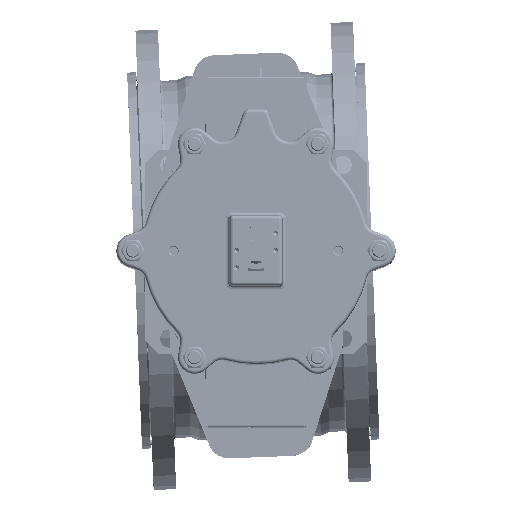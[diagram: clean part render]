
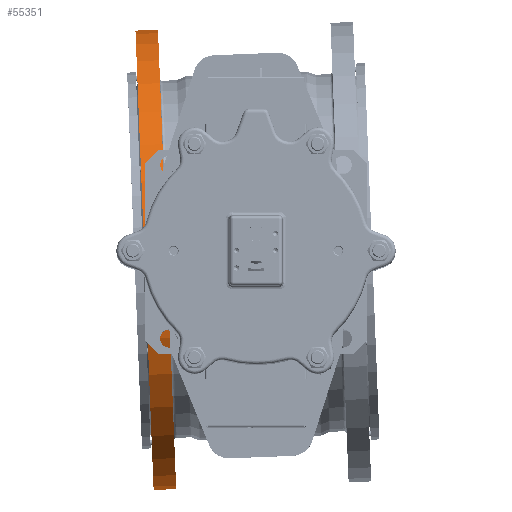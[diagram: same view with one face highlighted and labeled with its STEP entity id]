
A CAD part, top view. The second image highlights one B-rep face of the part: STEP entity #55351.
In plain terms, the highlighted cylindrical face has radius 265 mm (diameter 530 mm), a full revolution.
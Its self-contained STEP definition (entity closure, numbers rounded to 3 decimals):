
#1915=CYLINDRICAL_SURFACE('',#59389,265.);
#5272=FACE_OUTER_BOUND('',#8701,.T.);
#8701=EDGE_LOOP('',(#38372,#38373,#38374,#38375,#38376,#38377));
#12450=LINE('',#90997,#15572);
#15572=VECTOR('',#68068,265.);
#18478=CIRCLE('',#58563,265.);
#18479=CIRCLE('',#58564,265.);
#18690=CIRCLE('',#58842,265.);
#18691=CIRCLE('',#58843,265.);
#22460=VERTEX_POINT('',#83522);
#22461=VERTEX_POINT('',#83523);
#22719=VERTEX_POINT('',#84476);
#22720=VERTEX_POINT('',#84477);
#27822=EDGE_CURVE('',#22460,#22461,#18478,.T.);
#27823=EDGE_CURVE('',#22461,#22460,#18479,.T.);
#28134=EDGE_CURVE('',#22719,#22720,#18690,.T.);
#28135=EDGE_CURVE('',#22720,#22719,#18691,.T.);
#28856=EDGE_CURVE('',#22720,#22461,#12450,.T.);
#38372=ORIENTED_EDGE('',*,*,#28134,.F.);
#38373=ORIENTED_EDGE('',*,*,#28135,.F.);
#38374=ORIENTED_EDGE('',*,*,#28856,.T.);
#38375=ORIENTED_EDGE('',*,*,#27823,.T.);
#38376=ORIENTED_EDGE('',*,*,#27822,.T.);
#38377=ORIENTED_EDGE('',*,*,#28856,.F.);
#55351=ADVANCED_FACE('',(#5272),#1915,.T.);
#58563=AXIS2_PLACEMENT_3D('',#83524,#66069,#66070);
#58564=AXIS2_PLACEMENT_3D('',#83525,#66071,#66072);
#58842=AXIS2_PLACEMENT_3D('',#84478,#66710,#66711);
#58843=AXIS2_PLACEMENT_3D('',#84479,#66712,#66713);
#59389=AXIS2_PLACEMENT_3D('',#90996,#68066,#68067);
#66069=DIRECTION('center_axis',(0.999,0.04,0.));
#66070=DIRECTION('ref_axis',(0.04,-0.999,0.));
#66071=DIRECTION('center_axis',(0.999,0.04,0.));
#66072=DIRECTION('ref_axis',(0.04,-0.999,0.));
#66710=DIRECTION('center_axis',(0.999,0.04,0.));
#66711=DIRECTION('ref_axis',(0.04,-0.999,0.));
#66712=DIRECTION('center_axis',(0.999,0.04,0.));
#66713=DIRECTION('ref_axis',(0.04,-0.999,0.));
#68066=DIRECTION('center_axis',(0.999,0.04,0.));
#68067=DIRECTION('ref_axis',(0.,0.,
1.));
#68068=DIRECTION('',(-0.999,-0.04,0.));
#83522=CARTESIAN_POINT('',(-128.501,-8.184,265.));
#83523=CARTESIAN_POINT('',(-128.501,-8.184,-265.));
#83524=CARTESIAN_POINT('Origin',(-128.501,-8.184,0.));
#83525=CARTESIAN_POINT('Origin',(-128.501,-8.184,0.));
#84476=CARTESIAN_POINT('',(-102.522,-7.157,265.));
#84477=CARTESIAN_POINT('',(-102.522,-7.157,-265.));
#84478=CARTESIAN_POINT('Origin',(-102.522,-7.157,0.));
#84479=CARTESIAN_POINT('Origin',(-102.522,-7.157,0.));
#90996=CARTESIAN_POINT('Origin',(-115.511,-7.671,0.));
#90997=CARTESIAN_POINT('',(-115.511,-7.671,-265.));
